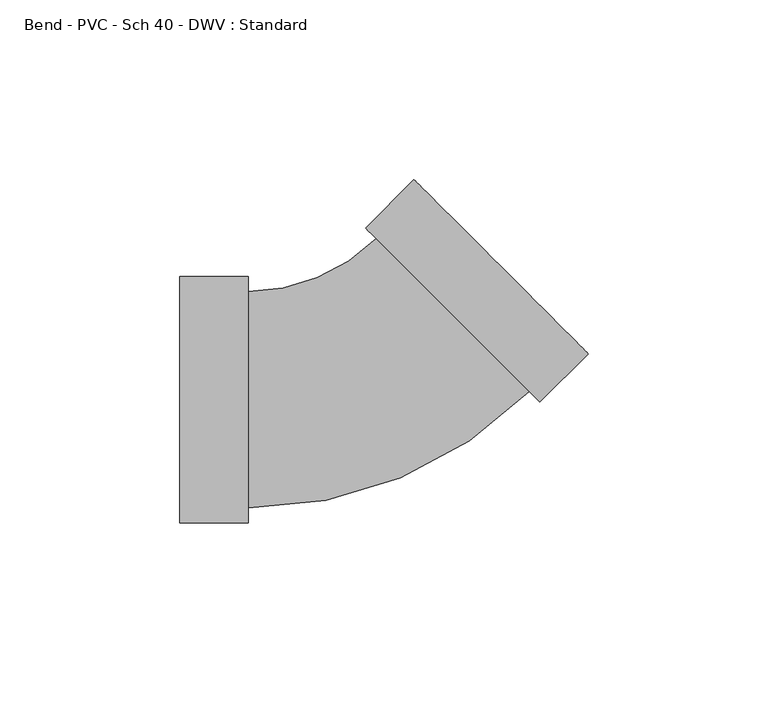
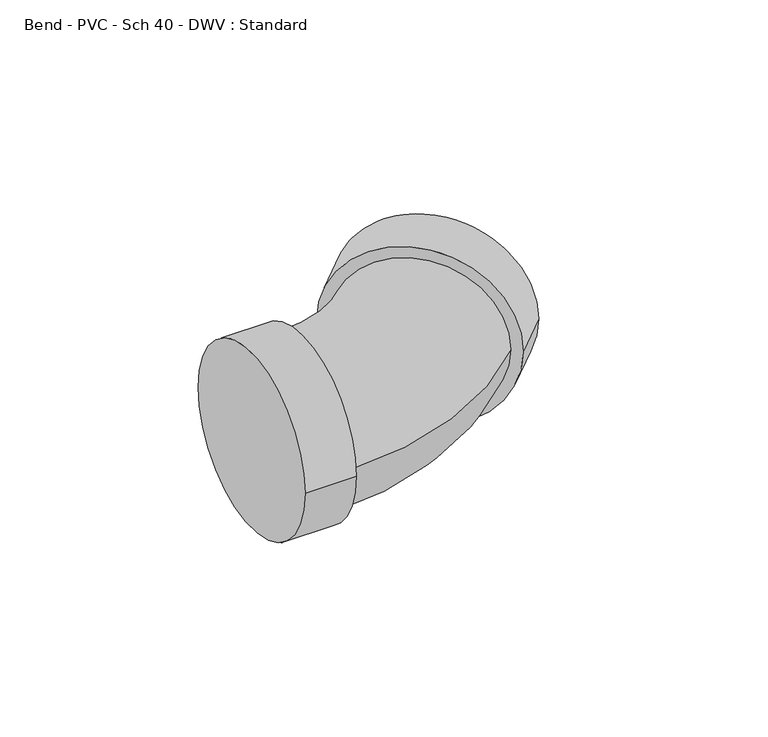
"""IFC4 building model written with IfcOpenShell, lengths in millimetres: pipe fitting geometry, Bend - PVC - Sch 40 - DWV : Standard."""

from ifc_helpers import new_model, si_unit, point, frame, origin, place, context, project, spatial, circle_curve, ellipse_curve, trimmed, source, transform, mapped, element, save
from ifc_brep_helpers import plane_surface, cylinder_surface, revolved_surface, advanced_brep


def bend_pvc_sch_40_dwv_standard_84cd9199(model_context):
    return source(origin(), model_context, "Body", "AdvancedBrep", [
        advanced_brep(
        [(-52.4002, -34.3154, 0.0), (-52.4002, 34.3154, 0.0), (-33.3502, -34.3154, 0.0), (-33.3502, 34.3154, 0.0), (-33.3502, -30.1625, 0.0), (-33.3502, 30.1625, 0.0), (2.2469769, 44.910615, 0.0), (44.9099056, 2.2611117, 0.0), (47.8469114, -0.6749699, 0.0), (-0.690029, 47.8466966, 0.0), (61.3151756, 12.7975339, 0.0), (12.7782353, 61.3192004, 0.0)],
        [
            (0, 1, circle_curve(frame((-52.4002, 0.0, 0.0), z_axis=(-1.0, 0.0, 0.0), x_axis=(0.0, 1.0, 0.0)), 34.3154)),
            (1, 0, circle_curve(frame((-52.4002, 0.0, 0.0), z_axis=(-1.0, 0.0, 0.0), x_axis=(0.0, 1.0, 0.0)), 34.3154)),
            (2, 3, circle_curve(frame((-33.3502, 0.0, 0.0), z_axis=(1.0, 0.0, 0.0), x_axis=(0.0, 1.0, 0.0)), 34.3154)),
            (3, 2, circle_curve(frame((-33.3502, 0.0, 0.0), z_axis=(1.0, 0.0, 0.0), x_axis=(0.0, 1.0, 0.0)), 34.3154)),
            (4, 5, circle_curve(frame((-33.3502, 0.0, 0.0), z_axis=(-1.0, 0.0, 0.0), x_axis=(0.0, 1.0, 0.0)), 30.1625)),
            (5, 4, circle_curve(frame((-33.3502, 0.0, 0.0), z_axis=(-1.0, 0.0, 0.0), x_axis=(0.0, 1.0, 0.0)), 30.1625)),
            (0, 2),
            (3, 1),
            (6, 5, circle_curve(frame((-33.3502, 80.49659, 0.0), z_axis=(0.0, 0.0, -1.0), x_axis=(0.0, -1.0, 0.0)), 50.33409)),
            (4, 7, circle_curve(frame((-33.3502, 80.49659, 0.0), z_axis=(0.0, 0.0, 1.0), x_axis=(0.0, -1.0, 0.0)), 110.65909)),
            (7, 6, circle_curve(frame((23.5784412, 23.5858633, 0.0), z_axis=(-0.7069954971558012, -0.7072180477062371, 0.0), x_axis=(-0.7072180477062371, 0.7069954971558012, 0.0)), 30.1625)),
            (6, 7, circle_curve(frame((23.5784412, 23.5858633, 0.0), z_axis=(-0.7069954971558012, -0.7072180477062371, 0.0), x_axis=(-0.7072180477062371, 0.7069954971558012, 0.0)), 30.1625)),
            (8, 9, circle_curve(frame((23.5784412, 23.5858633, 0.0), z_axis=(-0.7069954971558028, -0.7072180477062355, 0.0), x_axis=(-0.7072180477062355, 0.7069954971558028, 0.0)), 34.3154)),
            (9, 8, circle_curve(frame((23.5784412, 23.5858633, 0.0), z_axis=(-0.7069954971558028, -0.7072180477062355, 0.0), x_axis=(-0.7072180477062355, 0.7069954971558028, 0.0)), 34.3154)),
            (10, 11, circle_curve(frame((37.0467055, 37.0583671, 0.0), z_axis=(0.7069954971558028, 0.7072180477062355, 0.0), x_axis=(-0.7072180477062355, 0.7069954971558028, 0.0)), 34.3154)),
            (11, 10, circle_curve(frame((37.0467055, 37.0583671, 0.0), z_axis=(0.7069954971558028, 0.7072180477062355, 0.0), x_axis=(-0.7072180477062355, 0.7069954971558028, 0.0)), 34.3154)),
            (8, 10),
            (11, 9),
        ],
        [
            plane_surface(frame((-52.4002, 0.0, 0.0), z_axis=(-1.0, 0.0, 0.0), x_axis=(0.0, 0.0, 1.0))),
            plane_surface(frame((-33.3502, 0.0, 0.0), z_axis=(1.0, 0.0, 0.0), x_axis=(0.0, 0.0, 1.0))),
            cylinder_surface(frame((-52.4002, 0.0, 0.0), z_axis=(-1.0, 0.0, 0.0), x_axis=(0.0, 1.0, 0.0)), 34.3154),
            revolved_surface(trimmed(ellipse_curve(frame((-33.3502, 0.0, 0.0), z_axis=(-1.0, 0.0, 0.0), x_axis=(0.0, 1.0, 0.0)), 30.1625, 30.1625), [point((-33.3502, -30.1625, 0.0))], [point((-33.3502, 30.1625, 0.0))], True, "CARTESIAN"), (-33.3502, 80.49659, 0.0), (0.0, 0.0, 1.0)),
            revolved_surface(trimmed(ellipse_curve(frame((-33.3502, 0.0, 0.0), z_axis=(-1.0, 0.0, 0.0), x_axis=(0.0, 1.0, 0.0)), 30.1625, 30.1625), [point((-33.3502, 30.1625, 0.0))], [point((-33.3502, -30.1625, 0.0))], True, "CARTESIAN"), (-33.3502, 80.49659, 0.0), (0.0, 0.0, 1.0)),
            plane_surface(frame((23.5784412, 23.5858633, 0.0), z_axis=(-0.7069954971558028, -0.7072180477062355, 0.0), x_axis=(0.0, 0.0, 1.0))),
            plane_surface(frame((37.0467055, 37.0583671, 0.0), z_axis=(0.7069954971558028, 0.7072180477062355, 0.0), x_axis=(0.0, 0.0, 1.0))),
            cylinder_surface(frame((23.5784412, 23.5858633, 0.0), z_axis=(-0.7069954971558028, -0.7072180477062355, 0.0), x_axis=(-0.7072180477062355, 0.7069954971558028, 0.0)), 34.3154),
        ],
        [
            (0, [[1, 2]]),
            (1, [[3, 4], [5, 6]]),
            (2, [[-1, 7, -4, 8]]),
            (2, [[-2, -8, -3, -7]]),
            (3, [[9, -5, 10, 11]]),
            (4, [[-9, 12, -10, -6]]),
            (5, [[13, 14], [-11, -12]]),
            (6, [[15, 16]]),
            (7, [[-13, 17, -16, 18]]),
            (7, [[-14, -18, -15, -17]]),
        ],
    ),
    ])


if __name__ == "__main__":
    model = new_model("IFC4")
    model_context = context("Model", 3, world=origin())
    ifc_project = project(units=[si_unit("LENGTHUNIT", "METRE", prefix="MILLI")], contexts=[model_context])
    site = spatial("IfcSite", under=ifc_project)
    building = spatial("IfcBuilding", under=site)
    placement = place(None, origin())
    bend_pvc_sch_40_dwv_standard_shape = bend_pvc_sch_40_dwv_standard_84cd9199(model_context)
    element("IfcPipeFitting", 1, ObjectType="Bend - PVC - Sch 40 - DWV : Standard", at=placement, inside=building, context=model_context, shape_type="MappedRepresentation", body=[
        mapped(bend_pvc_sch_40_dwv_standard_shape, transform((0.0, 0.0, 0.0), x_axis=(1.0, 0.0, 0.0), y_axis=(0.0, 1.0, 0.0), z_axis=(0.0, 0.0, 1.0))),
    ])
    save(model, "model.ifc")
